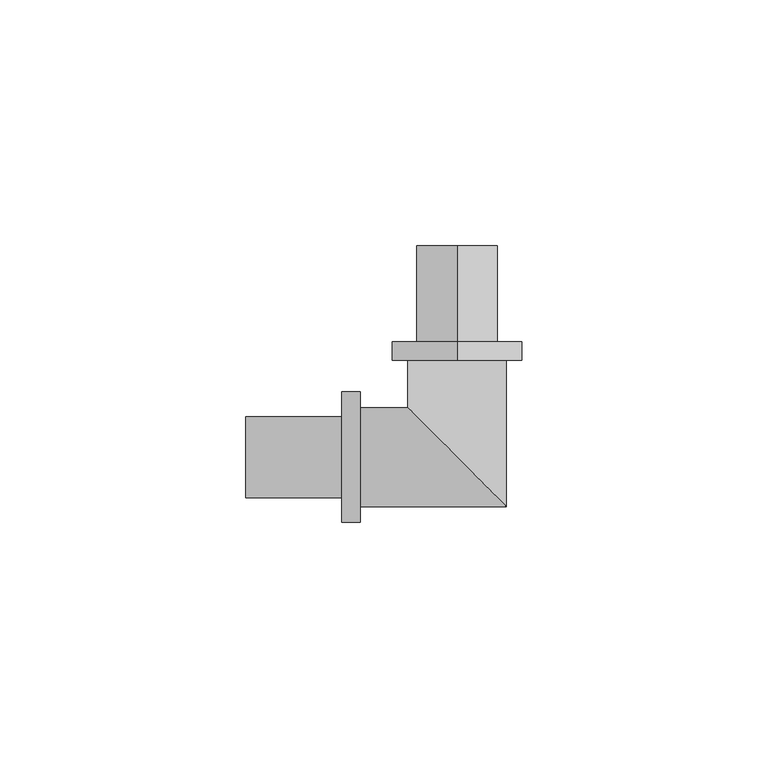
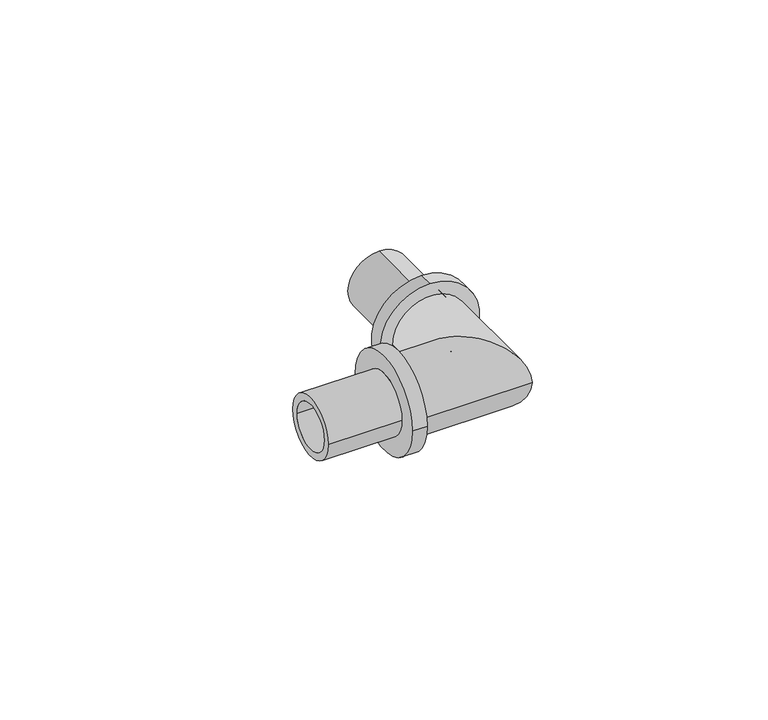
"""IFC4 building model written with IfcOpenShell, lengths in millimetres: pipe fitting geometry, RAUTITAN_Corner_LX : RTI LX C NL."""

from ifc_helpers import new_model, si_unit, frame, origin, place, context, project, spatial, polyline, circle_curve, ellipse_curve, source, transform, mapped, element, save
from ifc_brep_helpers import plane_surface, cylinder_surface, revolved_surface, advanced_brep


def pipe_fitting_7ed082ec(model_context):
    return source(origin(), model_context, "Body", "AdvancedBrep", [
        advanced_brep(
        [(0.0, 23.5, 13.25), (0.0, 23.5, -13.25), (0.0, 19.7, -13.25), (0.0, 19.7, 13.25), (0.0, 43.0, 8.25), (0.0, 43.0, -8.25), (0.0, 23.5, -8.25), (0.0, 23.5, 8.25), (0.0, 19.7, 6.25), (0.0, 19.7, -6.25), (0.0, 43.0, -6.25), (0.0, 43.0, 6.25)],
        [
            (0, 1, circle_curve(frame((0.0, 23.5, 0.0), z_axis=(0.0, -1.0, 0.0), x_axis=(0.0, 0.0, -1.0)), 13.25)),
            (1, 2),
            (2, 3, circle_curve(frame((0.0, 19.7, 0.0), z_axis=(0.0, 1.0, 0.0), x_axis=(0.0, 0.0, -1.0)), 13.25)),
            (3, 0),
            (4, 5, circle_curve(frame((0.0, 43.0, 0.0), z_axis=(0.0, -1.0, 0.0), x_axis=(0.0, 0.0, -1.0)), 8.25)),
            (5, 6),
            (6, 7, circle_curve(frame((0.0, 23.5, 0.0), z_axis=(0.0, 1.0, 0.0), x_axis=(0.0, 0.0, -1.0)), 8.25)),
            (7, 4),
            (8, 9, circle_curve(frame((0.0, 19.7, 0.0), z_axis=(0.0, -1.0, 0.0), x_axis=(0.0, 0.0, -1.0)), 6.25)),
            (9, 10),
            (10, 11, circle_curve(frame((0.0, 43.0, 0.0), z_axis=(0.0, 1.0, 0.0), x_axis=(0.0, 0.0, -1.0)), 6.25)),
            (11, 8),
            (1, 0, circle_curve(frame((0.0, 23.5, 0.0), z_axis=(0.0, -1.0, 0.0), x_axis=(0.0, 0.0, 1.0)), 13.25)),
            (3, 2, circle_curve(frame((0.0, 19.7, 0.0), z_axis=(0.0, 1.0, 0.0), x_axis=(0.0, 0.0, 1.0)), 13.25)),
            (6, 7, circle_curve(frame((0.0, 23.5, 0.0), z_axis=(0.0, -1.0, 0.0), x_axis=(0.0, 0.0, 1.0)), 8.25)),
            (5, 4, circle_curve(frame((0.0, 43.0, 0.0), z_axis=(0.0, -1.0, 0.0), x_axis=(0.0, 0.0, 1.0)), 8.25)),
            (10, 11, circle_curve(frame((0.0, 43.0, 0.0), z_axis=(0.0, -1.0, 0.0), x_axis=(0.0, 0.0, 1.0)), 6.25)),
            (9, 8, circle_curve(frame((0.0, 19.7, 0.0), z_axis=(0.0, -1.0, 0.0), x_axis=(0.0, 0.0, 1.0)), 6.25)),
        ],
        [
            cylinder_surface(frame((0.0, 19.7, 0.0), z_axis=(0.0, 1.0, 0.0), x_axis=(0.0, 0.0, -1.0)), 13.25),
            cylinder_surface(frame((0.0, 19.7, 0.0), z_axis=(0.0, 1.0, 0.0), x_axis=(0.0, 0.0, -1.0)), 8.25),
            revolved_surface(polyline([(0.0, 43.0, -6.25), (0.0, 19.7, -6.25)]), (0.0, 19.7, 0.0), (0.0, 1.0, 0.0)),
            cylinder_surface(frame((0.0, 19.7, 0.0), z_axis=(0.0, 1.0, 0.0), x_axis=(0.0, 0.0, 1.0)), 13.25),
            plane_surface(frame((0.0, 23.5, 0.0), z_axis=(0.0, 1.0, 0.0), x_axis=(0.0, 0.0, 1.0))),
            cylinder_surface(frame((0.0, 19.7, 0.0), z_axis=(0.0, 1.0, 0.0), x_axis=(0.0, 0.0, 1.0)), 8.25),
            plane_surface(frame((0.0, 43.0, 0.0), z_axis=(0.0, 1.0, 0.0), x_axis=(0.0, 0.0, 1.0))),
            revolved_surface(polyline([(0.0, 43.0, 6.25), (0.0, 19.7, 6.25)]), (0.0, 19.7, 0.0), (0.0, 1.0, 0.0)),
            plane_surface(frame((0.0, 19.7, 0.0), z_axis=(0.0, -1.0, 0.0), x_axis=(0.0, 0.0, 1.0))),
        ],
        [
            (0, [[1, 2, 3, 4]]),
            (1, [[5, 6, 7, 8]]),
            (2, [[9, 10, 11, 12]]),
            (3, [[13, -4, 14, -2]]),
            (4, [[-13, -1], [15, -7]]),
            (5, [[16, -8, -15, -6]]),
            (6, [[-16, -5], [17, -11]]),
            (7, [[18, -12, -17, -10]]),
            (8, [[-14, -3], [-18, -9]]),
        ],
    ),
        advanced_brep(
        [(-23.5, -13.25, 0.0), (-23.5, 13.25, 0.0), (-19.7, 13.25, 0.0), (-19.7, -13.25, 0.0), (-43.0, -8.25, 0.0), (-43.0, 8.25, 0.0), (-23.5, 8.25, 0.0), (-23.5, -8.25, 0.0), (-19.7, -6.25, 0.0), (-19.7, 6.25, 0.0), (-43.0, 6.25, 0.0), (-43.0, -6.25, 0.0)],
        [
            (0, 1, circle_curve(frame((-23.5, 0.0, 0.0), z_axis=(1.0, 0.0, 0.0), x_axis=(0.0, 1.0, 0.0)), 13.25)),
            (1, 2),
            (2, 3, circle_curve(frame((-19.7, 0.0, 0.0), z_axis=(-1.0, 0.0, 0.0), x_axis=(0.0, 1.0, 0.0)), 13.25)),
            (3, 0),
            (4, 5, circle_curve(frame((-43.0, 0.0, 0.0), z_axis=(1.0, 0.0, 0.0), x_axis=(0.0, 1.0, 0.0)), 8.25)),
            (5, 6),
            (6, 7, circle_curve(frame((-23.5, 0.0, 0.0), z_axis=(-1.0, 0.0, 0.0), x_axis=(0.0, 1.0, 0.0)), 8.25)),
            (7, 4),
            (8, 9, circle_curve(frame((-19.7, 0.0, 0.0), z_axis=(1.0, 0.0, 0.0), x_axis=(0.0, 1.0, 0.0)), 6.25)),
            (9, 10),
            (10, 11, circle_curve(frame((-43.0, 0.0, 0.0), z_axis=(-1.0, 0.0, 0.0), x_axis=(0.0, 1.0, 0.0)), 6.25)),
            (11, 8),
            (1, 0, circle_curve(frame((-23.5, 0.0, 0.0), z_axis=(1.0, 0.0, 0.0), x_axis=(0.0, -1.0, 0.0)), 13.25)),
            (3, 2, circle_curve(frame((-19.7, 0.0, 0.0), z_axis=(-1.0, 0.0, 0.0), x_axis=(0.0, -1.0, 0.0)), 13.25)),
            (6, 7, circle_curve(frame((-23.5, 0.0, 0.0), z_axis=(1.0, 0.0, 0.0), x_axis=(0.0, -1.0, 0.0)), 8.25)),
            (5, 4, circle_curve(frame((-43.0, 0.0, 0.0), z_axis=(1.0, 0.0, 0.0), x_axis=(0.0, -1.0, 0.0)), 8.25)),
            (10, 11, circle_curve(frame((-43.0, 0.0, 0.0), z_axis=(1.0, 0.0, 0.0), x_axis=(0.0, -1.0, 0.0)), 6.25)),
            (9, 8, circle_curve(frame((-19.7, 0.0, 0.0), z_axis=(1.0, 0.0, 0.0), x_axis=(0.0, -1.0, 0.0)), 6.25)),
        ],
        [
            cylinder_surface(frame((-19.7, 0.0, 0.0), z_axis=(-1.0, 0.0, 0.0), x_axis=(0.0, 1.0, 0.0)), 13.25),
            cylinder_surface(frame((-19.7, 0.0, 0.0), z_axis=(-1.0, 0.0, 0.0), x_axis=(0.0, 1.0, 0.0)), 8.25),
            revolved_surface(polyline([(-43.0, 6.25, 0.0), (-19.7, 6.25, 0.0)]), (-19.7, 0.0, 0.0), (-1.0, 0.0, 0.0)),
            cylinder_surface(frame((-19.7, 0.0, 0.0), z_axis=(-1.0, 0.0, 0.0), x_axis=(0.0, -1.0, 0.0)), 13.25),
            plane_surface(frame((-23.5, 0.0, 0.0), z_axis=(-1.0, 0.0, 0.0), x_axis=(0.0, -1.0, 0.0))),
            cylinder_surface(frame((-19.7, 0.0, 0.0), z_axis=(-1.0, 0.0, 0.0), x_axis=(0.0, -1.0, 0.0)), 8.25),
            plane_surface(frame((-43.0, 0.0, 0.0), z_axis=(-1.0, 0.0, 0.0), x_axis=(0.0, -1.0, 0.0))),
            revolved_surface(polyline([(-43.0, -6.25, 0.0), (-19.7, -6.25, 0.0)]), (-19.7, 0.0, 0.0), (-1.0, 0.0, 0.0)),
            plane_surface(frame((-19.7, 0.0, 0.0), z_axis=(1.0, 0.0, 0.0), x_axis=(0.0, -1.0, 0.0))),
        ],
        [
            (0, [[1, 2, 3, 4]]),
            (1, [[5, 6, 7, 8]]),
            (2, [[9, 10, 11, 12]]),
            (3, [[13, -4, 14, -2]]),
            (4, [[-13, -1], [15, -7]]),
            (5, [[16, -8, -15, -6]]),
            (6, [[-16, -5], [17, -11]]),
            (7, [[18, -12, -17, -10]]),
            (8, [[-14, -3], [-18, -9]]),
        ],
    ),
        advanced_brep(
        [(-19.7, -10.05, 0.0), (-19.7, 10.05, 0.0), (-19.7, -6.25, 0.0), (-19.7, 6.25, 0.0), (-6.25, 6.25, 0.0), (6.25, -6.25, 0.0), (10.05, 19.7, 0.0), (-10.05, 19.7, 0.0), (6.25, 19.7, 0.0), (-6.25, 19.7, 0.0), (10.05, -10.05, 0.0), (-10.05, 10.05, 0.0)],
        [
            (0, 1, circle_curve(frame((-19.7, 0.0, 0.0), z_axis=(-1.0, 0.0, 0.0), x_axis=(0.0, 1.0, 0.0)), 10.05)),
            (1, 0, circle_curve(frame((-19.7, 0.0, 0.0), z_axis=(-1.0, 0.0, 0.0), x_axis=(0.0, 1.0, 0.0)), 10.05)),
            (2, 3, circle_curve(frame((-19.7, 0.0, 0.0), z_axis=(1.0, 0.0, 0.0), x_axis=(0.0, 1.0, 0.0)), 6.25)),
            (3, 2, circle_curve(frame((-19.7, 0.0, 0.0), z_axis=(1.0, 0.0, 0.0), x_axis=(0.0, 1.0, 0.0)), 6.25)),
            (3, 4),
            (4, 5, ellipse_curve(frame((0.0, 0.0, 0.0), z_axis=(0.707106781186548, 0.7071067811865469, 0.0), x_axis=(0.7071067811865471, -0.7071067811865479, 0.0)), 8.8388348, 6.25)),
            (5, 2),
            (5, 4, ellipse_curve(frame((0.0, 0.0, 0.0), z_axis=(0.707106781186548, 0.7071067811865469, 0.0), x_axis=(0.7071067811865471, -0.7071067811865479, 0.0)), 8.8388348, 6.25)),
            (6, 7, circle_curve(frame((0.0, 19.7, 0.0), z_axis=(0.0, 1.0, 0.0), x_axis=(-1.0, 0.0, 0.0)), 10.05)),
            (7, 6, circle_curve(frame((0.0, 19.7, 0.0), z_axis=(0.0, 1.0, 0.0), x_axis=(-1.0, 0.0, 0.0)), 10.05)),
            (8, 9, circle_curve(frame((0.0, 19.7, 0.0), z_axis=(0.0, -1.0, 0.0), x_axis=(-1.0, 0.0, 0.0)), 6.25)),
            (9, 8, circle_curve(frame((0.0, 19.7, 0.0), z_axis=(0.0, -1.0, 0.0), x_axis=(-1.0, 0.0, 0.0)), 6.25)),
            (4, 9),
            (8, 5),
            (0, 10),
            (10, 11, ellipse_curve(frame((0.0, 0.0, 0.0), z_axis=(-0.707106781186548, -0.7071067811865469, 0.0), x_axis=(-0.7071067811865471, 0.7071067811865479, 0.0)), 14.2128463, 10.05)),
            (11, 1),
            (11, 10, ellipse_curve(frame((0.0, 0.0, 0.0), z_axis=(-0.707106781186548, -0.7071067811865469, 0.0), x_axis=(-0.7071067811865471, 0.7071067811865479, 0.0)), 14.2128463, 10.05)),
            (10, 6),
            (7, 11),
        ],
        [
            plane_surface(frame((-19.7, 0.0, 0.0), z_axis=(-1.0, 0.0, 0.0), x_axis=(0.0, 0.0, 1.0))),
            revolved_surface(polyline([(6.250000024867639, 6.25, 0.0), (-19.7, 6.25, 0.0)]), (-19.7, 0.0, 0.0), (1.0, 0.0, 0.0)),
            plane_surface(frame((0.0, 19.7, 0.0), z_axis=(0.0, 1.0, 0.0), x_axis=(0.0, 0.0, 1.0))),
            revolved_surface(polyline([(-6.25, 19.7, 0.0), (-6.25, -6.250000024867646, 0.0)]), (0.0, 0.0, 0.0), (0.0, 1.0, 0.0)),
            cylinder_surface(frame((-19.7, 0.0, 0.0), z_axis=(-1.0, 0.0, 0.0), x_axis=(0.0, 1.0, 0.0)), 10.05),
            cylinder_surface(frame((0.0, 0.0, 0.0), z_axis=(0.0, -1.0, 0.0), x_axis=(-1.0, 0.0, 0.0)), 10.05),
        ],
        [
            (0, [[1, 2], [3, 4]]),
            (1, [[-4, 5, 6, 7]]),
            (1, [[-3, -7, 8, -5]]),
            (2, [[9, 10], [11, 12]]),
            (3, [[-6, 13, -11, 14]]),
            (3, [[-8, -14, -12, -13]]),
            (4, [[-1, 15, 16, 17]]),
            (4, [[-2, -17, 18, -15]]),
            (5, [[-16, 19, -10, 20]]),
            (5, [[-18, -20, -9, -19]]),
        ],
    ),
    ])


if __name__ == "__main__":
    model = new_model("IFC4")
    model_context = context("Model", 3, world=origin())
    ifc_project = project(units=[si_unit("LENGTHUNIT", "METRE", prefix="MILLI")], contexts=[model_context])
    site = spatial("IfcSite", under=ifc_project)
    building = spatial("IfcBuilding", under=site)
    placement = place(None, origin())
    pipe_fitting_shape = pipe_fitting_7ed082ec(model_context)
    element("IfcPipeFitting", 1, ObjectType="RAUTITAN_Corner_LX : RTI LX C NL", at=placement, inside=building, context=model_context, shape_type="MappedRepresentation", body=[
        mapped(pipe_fitting_shape, transform((0.0, 0.0, 0.0), x_axis=(1.0, 0.0, 0.0), y_axis=(0.0, 1.0, 0.0), z_axis=(0.0, 0.0, 1.0))),
    ])
    save(model, "model.ifc")
